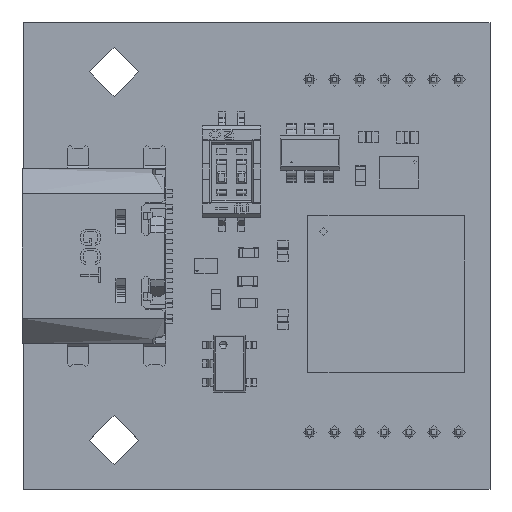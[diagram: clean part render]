
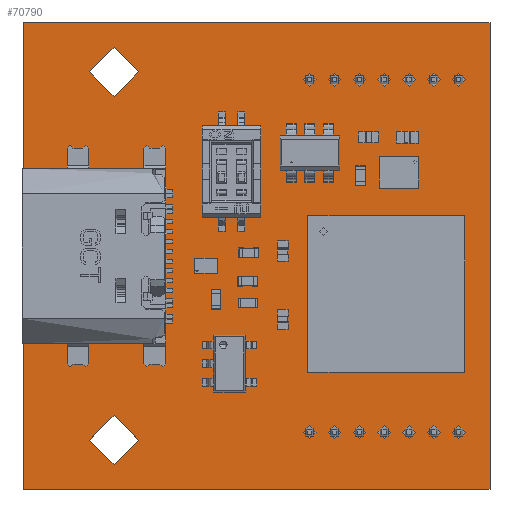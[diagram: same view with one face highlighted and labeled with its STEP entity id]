
A CAD part, top view. The second image highlights one B-rep face of the part: STEP entity #70790.
In plain terms, the highlighted planar face has unit normal (0, 0, 1).
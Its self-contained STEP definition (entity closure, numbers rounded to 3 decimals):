
#70480 = VERTEX_POINT('',#70481);
#70481 = CARTESIAN_POINT('',(11.9,-11.9,1.11));
#70487 = EDGE_CURVE('',#70480,#70488,#70490,.T.);
#70488 = VERTEX_POINT('',#70489);
#70489 = CARTESIAN_POINT('',(-11.9,-11.9,1.11));
#70490 = LINE('',#70491,#70492);
#70491 = CARTESIAN_POINT('',(11.9,-11.9,1.11));
#70492 = VECTOR('',#70493,1.);
#70493 = DIRECTION('',(-1.,0.,0.));
#70520 = VERTEX_POINT('',#70521);
#70521 = CARTESIAN_POINT('',(11.9,11.9,1.11));
#70527 = EDGE_CURVE('',#70520,#70480,#70528,.T.);
#70528 = LINE('',#70529,#70530);
#70529 = CARTESIAN_POINT('',(11.9,11.9,1.11));
#70530 = VECTOR('',#70531,1.);
#70531 = DIRECTION('',(0.,-1.,0.));
#70549 = EDGE_CURVE('',#70488,#70550,#70552,.T.);
#70550 = VERTEX_POINT('',#70551);
#70551 = CARTESIAN_POINT('',(-11.9,11.9,1.11));
#70552 = LINE('',#70553,#70554);
#70553 = CARTESIAN_POINT('',(-11.9,-11.9,1.11));
#70554 = VECTOR('',#70555,1.);
#70555 = DIRECTION('',(0.,1.,0.));
#70790 = ADVANCED_FACE('',(#70791,#70802,#70813,#70824,#70835,#70846,
    #70857,#70868,#70879,#70890,#70901,#70912,#70923,#70934,#70945,
    #70956,#70967,#70978,#70989),#71000,.T.);
#70791 = FACE_BOUND('',#70792,.T.);
#70792 = EDGE_LOOP('',(#70793,#70794,#70795,#70801));
#70793 = ORIENTED_EDGE('',*,*,#70487,.F.);
#70794 = ORIENTED_EDGE('',*,*,#70527,.F.);
#70795 = ORIENTED_EDGE('',*,*,#70796,.F.);
#70796 = EDGE_CURVE('',#70550,#70520,#70797,.T.);
#70797 = LINE('',#70798,#70799);
#70798 = CARTESIAN_POINT('',(-11.9,11.9,1.11));
#70799 = VECTOR('',#70800,1.);
#70800 = DIRECTION('',(1.,0.,0.));
#70801 = ORIENTED_EDGE('',*,*,#70549,.F.);
#70802 = FACE_BOUND('',#70803,.T.);
#70803 = EDGE_LOOP('',(#70804));
#70804 = ORIENTED_EDGE('',*,*,#70805,.T.);
#70805 = EDGE_CURVE('',#70806,#70806,#70808,.T.);
#70806 = VERTEX_POINT('',#70807);
#70807 = CARTESIAN_POINT('',(-7.3,-10.65,1.11));
#70808 = CIRCLE('',#70809,1.25);
#70809 = AXIS2_PLACEMENT_3D('',#70810,#70811,#70812);
#70810 = CARTESIAN_POINT('',(-7.3,-9.4,1.11));
#70811 = DIRECTION('',(-0.,0.,-1.));
#70812 = DIRECTION('',(0.,-1.,-0.));
#70813 = FACE_BOUND('',#70814,.T.);
#70814 = EDGE_LOOP('',(#70815));
#70815 = ORIENTED_EDGE('',*,*,#70816,.T.);
#70816 = EDGE_CURVE('',#70817,#70817,#70819,.T.);
#70817 = VERTEX_POINT('',#70818);
#70818 = CARTESIAN_POINT('',(-5.7,-3.281,1.11));
#70819 = CIRCLE('',#70820,0.381);
#70820 = AXIS2_PLACEMENT_3D('',#70821,#70822,#70823);
#70821 = CARTESIAN_POINT('',(-5.7,-2.9,1.11));
#70822 = DIRECTION('',(-0.,0.,-1.));
#70823 = DIRECTION('',(-0.,-1.,0.));
#70824 = FACE_BOUND('',#70825,.T.);
#70825 = EDGE_LOOP('',(#70826));
#70826 = ORIENTED_EDGE('',*,*,#70827,.T.);
#70827 = EDGE_CURVE('',#70828,#70828,#70830,.T.);
#70828 = VERTEX_POINT('',#70829);
#70829 = CARTESIAN_POINT('',(2.69,-9.325,1.11));
#70830 = CIRCLE('',#70831,0.325);
#70831 = AXIS2_PLACEMENT_3D('',#70832,#70833,#70834);
#70832 = CARTESIAN_POINT('',(2.69,-9.,1.11));
#70833 = DIRECTION('',(-0.,0.,-1.));
#70834 = DIRECTION('',(0.,-1.,0.));
#70835 = FACE_BOUND('',#70836,.T.);
#70836 = EDGE_LOOP('',(#70837));
#70837 = ORIENTED_EDGE('',*,*,#70838,.T.);
#70838 = EDGE_CURVE('',#70839,#70839,#70841,.T.);
#70839 = VERTEX_POINT('',#70840);
#70840 = CARTESIAN_POINT('',(3.96,-9.325,1.11));
#70841 = CIRCLE('',#70842,0.325);
#70842 = AXIS2_PLACEMENT_3D('',#70843,#70844,#70845);
#70843 = CARTESIAN_POINT('',(3.96,-9.,1.11));
#70844 = DIRECTION('',(-0.,0.,-1.));
#70845 = DIRECTION('',(-0.,-1.,0.));
#70846 = FACE_BOUND('',#70847,.T.);
#70847 = EDGE_LOOP('',(#70848));
#70848 = ORIENTED_EDGE('',*,*,#70849,.T.);
#70849 = EDGE_CURVE('',#70850,#70850,#70852,.T.);
#70850 = VERTEX_POINT('',#70851);
#70851 = CARTESIAN_POINT('',(5.23,-9.325,1.11));
#70852 = CIRCLE('',#70853,0.325);
#70853 = AXIS2_PLACEMENT_3D('',#70854,#70855,#70856);
#70854 = CARTESIAN_POINT('',(5.23,-9.,1.11));
#70855 = DIRECTION('',(-0.,0.,-1.));
#70856 = DIRECTION('',(-0.,-1.,0.));
#70857 = FACE_BOUND('',#70858,.T.);
#70858 = EDGE_LOOP('',(#70859));
#70859 = ORIENTED_EDGE('',*,*,#70860,.T.);
#70860 = EDGE_CURVE('',#70861,#70861,#70863,.T.);
#70861 = VERTEX_POINT('',#70862);
#70862 = CARTESIAN_POINT('',(6.5,-9.325,1.11));
#70863 = CIRCLE('',#70864,0.325);
#70864 = AXIS2_PLACEMENT_3D('',#70865,#70866,#70867);
#70865 = CARTESIAN_POINT('',(6.5,-9.,1.11));
#70866 = DIRECTION('',(-0.,0.,-1.));
#70867 = DIRECTION('',(-0.,-1.,0.));
#70868 = FACE_BOUND('',#70869,.T.);
#70869 = EDGE_LOOP('',(#70870));
#70870 = ORIENTED_EDGE('',*,*,#70871,.T.);
#70871 = EDGE_CURVE('',#70872,#70872,#70874,.T.);
#70872 = VERTEX_POINT('',#70873);
#70873 = CARTESIAN_POINT('',(7.77,-9.325,1.11));
#70874 = CIRCLE('',#70875,0.325);
#70875 = AXIS2_PLACEMENT_3D('',#70876,#70877,#70878);
#70876 = CARTESIAN_POINT('',(7.77,-9.,1.11));
#70877 = DIRECTION('',(-0.,0.,-1.));
#70878 = DIRECTION('',(0.,-1.,0.));
#70879 = FACE_BOUND('',#70880,.T.);
#70880 = EDGE_LOOP('',(#70881));
#70881 = ORIENTED_EDGE('',*,*,#70882,.T.);
#70882 = EDGE_CURVE('',#70883,#70883,#70885,.T.);
#70883 = VERTEX_POINT('',#70884);
#70884 = CARTESIAN_POINT('',(9.04,-9.325,1.11));
#70885 = CIRCLE('',#70886,0.325);
#70886 = AXIS2_PLACEMENT_3D('',#70887,#70888,#70889);
#70887 = CARTESIAN_POINT('',(9.04,-9.,1.11));
#70888 = DIRECTION('',(-0.,0.,-1.));
#70889 = DIRECTION('',(-0.,-1.,0.));
#70890 = FACE_BOUND('',#70891,.T.);
#70891 = EDGE_LOOP('',(#70892));
#70892 = ORIENTED_EDGE('',*,*,#70893,.T.);
#70893 = EDGE_CURVE('',#70894,#70894,#70896,.T.);
#70894 = VERTEX_POINT('',#70895);
#70895 = CARTESIAN_POINT('',(10.31,-9.325,1.11));
#70896 = CIRCLE('',#70897,0.325);
#70897 = AXIS2_PLACEMENT_3D('',#70898,#70899,#70900);
#70898 = CARTESIAN_POINT('',(10.31,-9.,1.11));
#70899 = DIRECTION('',(-0.,0.,-1.));
#70900 = DIRECTION('',(0.,-1.,-0.));
#70901 = FACE_BOUND('',#70902,.T.);
#70902 = EDGE_LOOP('',(#70903));
#70903 = ORIENTED_EDGE('',*,*,#70904,.T.);
#70904 = EDGE_CURVE('',#70905,#70905,#70907,.T.);
#70905 = VERTEX_POINT('',#70906);
#70906 = CARTESIAN_POINT('',(-5.7,2.499,1.11));
#70907 = CIRCLE('',#70908,0.381);
#70908 = AXIS2_PLACEMENT_3D('',#70909,#70910,#70911);
#70909 = CARTESIAN_POINT('',(-5.7,2.88,1.11));
#70910 = DIRECTION('',(-0.,0.,-1.));
#70911 = DIRECTION('',(-0.,-1.,0.));
#70912 = FACE_BOUND('',#70913,.T.);
#70913 = EDGE_LOOP('',(#70914));
#70914 = ORIENTED_EDGE('',*,*,#70915,.T.);
#70915 = EDGE_CURVE('',#70916,#70916,#70918,.T.);
#70916 = VERTEX_POINT('',#70917);
#70917 = CARTESIAN_POINT('',(-7.3,8.15,1.11));
#70918 = CIRCLE('',#70919,1.25);
#70919 = AXIS2_PLACEMENT_3D('',#70920,#70921,#70922);
#70920 = CARTESIAN_POINT('',(-7.3,9.4,1.11));
#70921 = DIRECTION('',(-0.,0.,-1.));
#70922 = DIRECTION('',(0.,-1.,-0.));
#70923 = FACE_BOUND('',#70924,.T.);
#70924 = EDGE_LOOP('',(#70925));
#70925 = ORIENTED_EDGE('',*,*,#70926,.T.);
#70926 = EDGE_CURVE('',#70927,#70927,#70929,.T.);
#70927 = VERTEX_POINT('',#70928);
#70928 = CARTESIAN_POINT('',(2.69,8.675,1.11));
#70929 = CIRCLE('',#70930,0.325);
#70930 = AXIS2_PLACEMENT_3D('',#70931,#70932,#70933);
#70931 = CARTESIAN_POINT('',(2.69,9.,1.11));
#70932 = DIRECTION('',(-0.,0.,-1.));
#70933 = DIRECTION('',(0.,-1.,0.));
#70934 = FACE_BOUND('',#70935,.T.);
#70935 = EDGE_LOOP('',(#70936));
#70936 = ORIENTED_EDGE('',*,*,#70937,.T.);
#70937 = EDGE_CURVE('',#70938,#70938,#70940,.T.);
#70938 = VERTEX_POINT('',#70939);
#70939 = CARTESIAN_POINT('',(3.96,8.675,1.11));
#70940 = CIRCLE('',#70941,0.325);
#70941 = AXIS2_PLACEMENT_3D('',#70942,#70943,#70944);
#70942 = CARTESIAN_POINT('',(3.96,9.,1.11));
#70943 = DIRECTION('',(-0.,0.,-1.));
#70944 = DIRECTION('',(-0.,-1.,0.));
#70945 = FACE_BOUND('',#70946,.T.);
#70946 = EDGE_LOOP('',(#70947));
#70947 = ORIENTED_EDGE('',*,*,#70948,.T.);
#70948 = EDGE_CURVE('',#70949,#70949,#70951,.T.);
#70949 = VERTEX_POINT('',#70950);
#70950 = CARTESIAN_POINT('',(5.23,8.675,1.11));
#70951 = CIRCLE('',#70952,0.325);
#70952 = AXIS2_PLACEMENT_3D('',#70953,#70954,#70955);
#70953 = CARTESIAN_POINT('',(5.23,9.,1.11));
#70954 = DIRECTION('',(-0.,0.,-1.));
#70955 = DIRECTION('',(-0.,-1.,0.));
#70956 = FACE_BOUND('',#70957,.T.);
#70957 = EDGE_LOOP('',(#70958));
#70958 = ORIENTED_EDGE('',*,*,#70959,.T.);
#70959 = EDGE_CURVE('',#70960,#70960,#70962,.T.);
#70960 = VERTEX_POINT('',#70961);
#70961 = CARTESIAN_POINT('',(6.5,8.675,1.11));
#70962 = CIRCLE('',#70963,0.325);
#70963 = AXIS2_PLACEMENT_3D('',#70964,#70965,#70966);
#70964 = CARTESIAN_POINT('',(6.5,9.,1.11));
#70965 = DIRECTION('',(-0.,0.,-1.));
#70966 = DIRECTION('',(-0.,-1.,0.));
#70967 = FACE_BOUND('',#70968,.T.);
#70968 = EDGE_LOOP('',(#70969));
#70969 = ORIENTED_EDGE('',*,*,#70970,.T.);
#70970 = EDGE_CURVE('',#70971,#70971,#70973,.T.);
#70971 = VERTEX_POINT('',#70972);
#70972 = CARTESIAN_POINT('',(7.77,8.675,1.11));
#70973 = CIRCLE('',#70974,0.325);
#70974 = AXIS2_PLACEMENT_3D('',#70975,#70976,#70977);
#70975 = CARTESIAN_POINT('',(7.77,9.,1.11));
#70976 = DIRECTION('',(-0.,0.,-1.));
#70977 = DIRECTION('',(0.,-1.,0.));
#70978 = FACE_BOUND('',#70979,.T.);
#70979 = EDGE_LOOP('',(#70980));
#70980 = ORIENTED_EDGE('',*,*,#70981,.T.);
#70981 = EDGE_CURVE('',#70982,#70982,#70984,.T.);
#70982 = VERTEX_POINT('',#70983);
#70983 = CARTESIAN_POINT('',(9.04,8.675,1.11));
#70984 = CIRCLE('',#70985,0.325);
#70985 = AXIS2_PLACEMENT_3D('',#70986,#70987,#70988);
#70986 = CARTESIAN_POINT('',(9.04,9.,1.11));
#70987 = DIRECTION('',(-0.,0.,-1.));
#70988 = DIRECTION('',(-0.,-1.,0.));
#70989 = FACE_BOUND('',#70990,.T.);
#70990 = EDGE_LOOP('',(#70991));
#70991 = ORIENTED_EDGE('',*,*,#70992,.T.);
#70992 = EDGE_CURVE('',#70993,#70993,#70995,.T.);
#70993 = VERTEX_POINT('',#70994);
#70994 = CARTESIAN_POINT('',(10.31,8.675,1.11));
#70995 = CIRCLE('',#70996,0.325);
#70996 = AXIS2_PLACEMENT_3D('',#70997,#70998,#70999);
#70997 = CARTESIAN_POINT('',(10.31,9.,1.11));
#70998 = DIRECTION('',(-0.,0.,-1.));
#70999 = DIRECTION('',(0.,-1.,-0.));
#71000 = PLANE('',#71001);
#71001 = AXIS2_PLACEMENT_3D('',#71002,#71003,#71004);
#71002 = CARTESIAN_POINT('',(0.,0.,1.11));
#71003 = DIRECTION('',(0.,0.,1.));
#71004 = DIRECTION('',(1.,0.,-0.));
